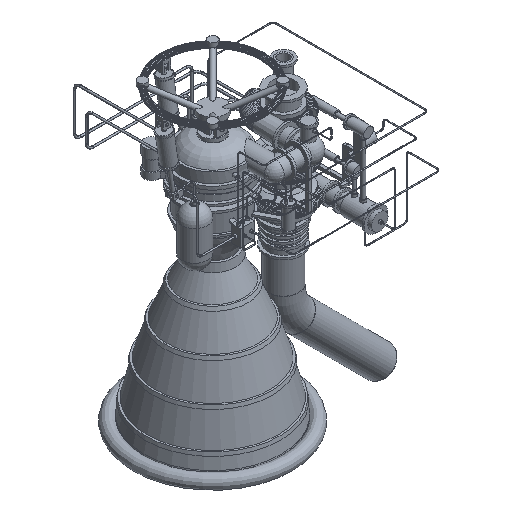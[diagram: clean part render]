
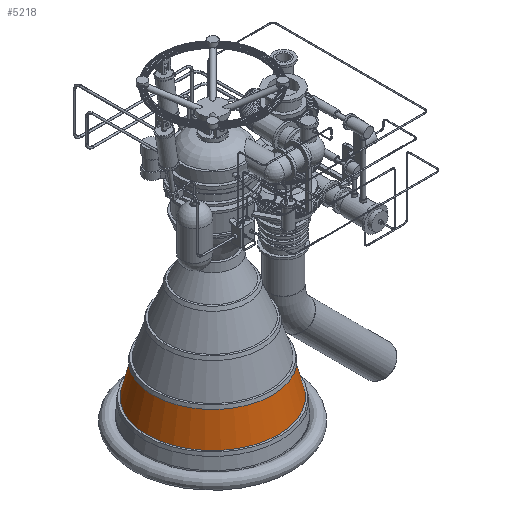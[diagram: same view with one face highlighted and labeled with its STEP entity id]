
A CAD part, isometric view. The second image highlights one B-rep face of the part: STEP entity #5218.
In plain terms, the highlighted face is a revolution surface.
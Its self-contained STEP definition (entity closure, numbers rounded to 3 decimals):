
#5077 = PLANE('',#5078);
#5078 = AXIS2_PLACEMENT_3D('',#5079,#5080,#5081);
#5079 = CARTESIAN_POINT('',(0.,0.,-849.));
#5080 = DIRECTION('',(0.,0.,1.));
#5081 = DIRECTION('',(1.,0.,-0.));
#5131 = EDGE_CURVE('',#5132,#5132,#5134,.T.);
#5132 = VERTEX_POINT('',#5133);
#5133 = CARTESIAN_POINT('',(435.47,0.,-849.));
#5134 = SURFACE_CURVE('',#5135,(#5140,#5147),.PCURVE_S1.);
#5135 = CIRCLE('',#5136,435.47);
#5136 = AXIS2_PLACEMENT_3D('',#5137,#5138,#5139);
#5137 = CARTESIAN_POINT('',(0.,0.,-849.));
#5138 = DIRECTION('',(0.,0.,1.));
#5139 = DIRECTION('',(1.,0.,-0.));
#5140 = PCURVE('',#5077,#5141);
#5141 = DEFINITIONAL_REPRESENTATION('',(#5142),#5146);
#5142 = CIRCLE('',#5143,435.47);
#5143 = AXIS2_PLACEMENT_2D('',#5144,#5145);
#5144 = CARTESIAN_POINT('',(0.,0.));
#5145 = DIRECTION('',(1.,0.));
#5146 = ( GEOMETRIC_REPRESENTATION_CONTEXT(2) 
PARAMETRIC_REPRESENTATION_CONTEXT() REPRESENTATION_CONTEXT('2D SPACE',''
  ) );
#5147 = PCURVE('',#5148,#5157);
#5148 = SURFACE_OF_REVOLUTION('',#5149,#5154);
#5149 = B_SPLINE_CURVE_WITH_KNOTS('',3,(#5150,#5151,#5152,#5153),
  .UNSPECIFIED.,.F.,.F.,(4,4),(0.,1.),.PIECEWISE_BEZIER_KNOTS.);
#5150 = CARTESIAN_POINT('',(435.47,0.,-849.));
#5151 = CARTESIAN_POINT('',(420.321,0.,-779.198));
#5152 = CARTESIAN_POINT('',(403.426,0.,-709.758));
#5153 = CARTESIAN_POINT('',(384.063,0.,-641.));
#5154 = AXIS1_PLACEMENT('',#5155,#5156);
#5155 = CARTESIAN_POINT('',(0.,0.,0.));
#5156 = DIRECTION('',(0.,0.,1.));
#5157 = DEFINITIONAL_REPRESENTATION('',(#5158),#5162);
#5158 = LINE('',#5159,#5160);
#5159 = CARTESIAN_POINT('',(0.,0.));
#5160 = VECTOR('',#5161,1.);
#5161 = DIRECTION('',(1.,0.));
#5162 = ( GEOMETRIC_REPRESENTATION_CONTEXT(2) 
PARAMETRIC_REPRESENTATION_CONTEXT() REPRESENTATION_CONTEXT('2D SPACE',''
  ) );
#5184 = PLANE('',#5185);
#5185 = AXIS2_PLACEMENT_3D('',#5186,#5187,#5188);
#5186 = CARTESIAN_POINT('',(0.,0.,-641.));
#5187 = DIRECTION('',(0.,0.,1.));
#5188 = DIRECTION('',(1.,0.,-0.));
#5218 = ADVANCED_FACE('',(#5219),#5148,.T.);
#5219 = FACE_BOUND('',#5220,.T.);
#5220 = EDGE_LOOP('',(#5221,#5222,#5246,#5268));
#5221 = ORIENTED_EDGE('',*,*,#5131,.T.);
#5222 = ORIENTED_EDGE('',*,*,#5223,.T.);
#5223 = EDGE_CURVE('',#5132,#5224,#5226,.T.);
#5224 = VERTEX_POINT('',#5225);
#5225 = CARTESIAN_POINT('',(384.063,0.,-641.));
#5226 = SEAM_CURVE('',#5227,(#5232,#5239),.PCURVE_S1.);
#5227 = B_SPLINE_CURVE_WITH_KNOTS('',3,(#5228,#5229,#5230,#5231),
  .UNSPECIFIED.,.F.,.F.,(4,4),(0.,1.),.PIECEWISE_BEZIER_KNOTS.);
#5228 = CARTESIAN_POINT('',(435.47,0.,-849.));
#5229 = CARTESIAN_POINT('',(420.321,0.,-779.198));
#5230 = CARTESIAN_POINT('',(403.426,0.,-709.758));
#5231 = CARTESIAN_POINT('',(384.063,0.,-641.));
#5232 = PCURVE('',#5148,#5233);
#5233 = DEFINITIONAL_REPRESENTATION('',(#5234),#5238);
#5234 = LINE('',#5235,#5236);
#5235 = CARTESIAN_POINT('',(0.,0.));
#5236 = VECTOR('',#5237,1.);
#5237 = DIRECTION('',(0.,1.));
#5238 = ( GEOMETRIC_REPRESENTATION_CONTEXT(2) 
PARAMETRIC_REPRESENTATION_CONTEXT() REPRESENTATION_CONTEXT('2D SPACE',''
  ) );
#5239 = PCURVE('',#5148,#5240);
#5240 = DEFINITIONAL_REPRESENTATION('',(#5241),#5245);
#5241 = LINE('',#5242,#5243);
#5242 = CARTESIAN_POINT('',(6.283,0.));
#5243 = VECTOR('',#5244,1.);
#5244 = DIRECTION('',(0.,1.));
#5245 = ( GEOMETRIC_REPRESENTATION_CONTEXT(2) 
PARAMETRIC_REPRESENTATION_CONTEXT() REPRESENTATION_CONTEXT('2D SPACE',''
  ) );
#5246 = ORIENTED_EDGE('',*,*,#5247,.F.);
#5247 = EDGE_CURVE('',#5224,#5224,#5248,.T.);
#5248 = SURFACE_CURVE('',#5249,(#5254,#5261),.PCURVE_S1.);
#5249 = CIRCLE('',#5250,384.063);
#5250 = AXIS2_PLACEMENT_3D('',#5251,#5252,#5253);
#5251 = CARTESIAN_POINT('',(0.,0.,-641.));
#5252 = DIRECTION('',(0.,0.,1.));
#5253 = DIRECTION('',(1.,0.,-0.));
#5254 = PCURVE('',#5148,#5255);
#5255 = DEFINITIONAL_REPRESENTATION('',(#5256),#5260);
#5256 = LINE('',#5257,#5258);
#5257 = CARTESIAN_POINT('',(0.,1.));
#5258 = VECTOR('',#5259,1.);
#5259 = DIRECTION('',(1.,0.));
#5260 = ( GEOMETRIC_REPRESENTATION_CONTEXT(2) 
PARAMETRIC_REPRESENTATION_CONTEXT() REPRESENTATION_CONTEXT('2D SPACE',''
  ) );
#5261 = PCURVE('',#5184,#5262);
#5262 = DEFINITIONAL_REPRESENTATION('',(#5263),#5267);
#5263 = CIRCLE('',#5264,384.063);
#5264 = AXIS2_PLACEMENT_2D('',#5265,#5266);
#5265 = CARTESIAN_POINT('',(0.,0.));
#5266 = DIRECTION('',(1.,-0.));
#5267 = ( GEOMETRIC_REPRESENTATION_CONTEXT(2) 
PARAMETRIC_REPRESENTATION_CONTEXT() REPRESENTATION_CONTEXT('2D SPACE',''
  ) );
#5268 = ORIENTED_EDGE('',*,*,#5223,.F.);
